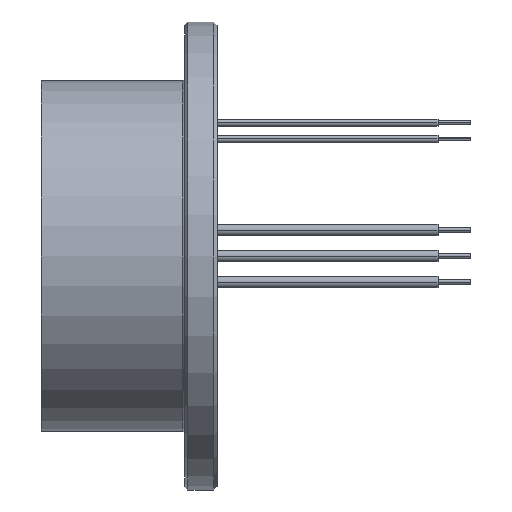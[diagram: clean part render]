
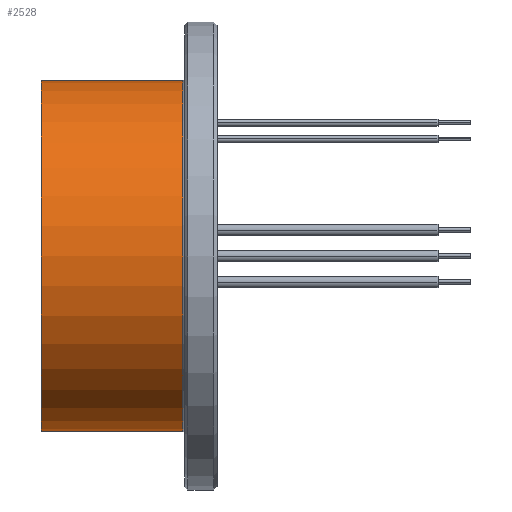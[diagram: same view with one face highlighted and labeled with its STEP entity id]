
A CAD part, front view. The second image highlights one B-rep face of the part: STEP entity #2528.
In plain terms, the highlighted cylindrical face has radius 27 mm (diameter 54 mm), a partial arc.
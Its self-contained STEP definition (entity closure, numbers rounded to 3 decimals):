
#494=CARTESIAN_POINT('',(-5.3,0.,0.));
#495=DIRECTION('',(-1.,0.,0.));
#496=DIRECTION('',(0.,0.,-1.));
#497=AXIS2_PLACEMENT_3D('',#494,#495,#496);
#502=DIRECTION('',(1.,0.,0.));
#503=VECTOR('',#502,21.7);
#504=CARTESIAN_POINT('',(-27.,0.,-27.));
#505=LINE('',#504,#503);
#509=CARTESIAN_POINT('',(-27.,0.,0.));
#510=DIRECTION('',(-1.,0.,0.));
#511=DIRECTION('',(0.,0.,-1.));
#512=AXIS2_PLACEMENT_3D('',#509,#510,#511);
#517=DIRECTION('',(1.,0.,0.));
#518=VECTOR('',#517,21.7);
#519=CARTESIAN_POINT('',(-27.,0.,27.));
#520=LINE('',#519,#518);
#1719=CARTESIAN_POINT('',(-27.,0.,-27.));
#1720=CARTESIAN_POINT('',(-27.,0.,27.));
#1721=VERTEX_POINT('',#1719);
#1722=VERTEX_POINT('',#1720);
#1739=CARTESIAN_POINT('',(-5.3,0.,-27.));
#1740=CARTESIAN_POINT('',(-5.3,0.,27.));
#1741=VERTEX_POINT('',#1739);
#1742=VERTEX_POINT('',#1740);
#2514=CARTESIAN_POINT('',(-28.35,0.,0.));
#2515=DIRECTION('',(1.,0.,0.));
#2516=DIRECTION('',(0.,0.,-1.));
#2517=AXIS2_PLACEMENT_3D('',#2514,#2515,#2516);
#2518=CYLINDRICAL_SURFACE('',#2517,27.);
#2520=ORIENTED_EDGE('',*,*,#2519,.F.);
#2522=ORIENTED_EDGE('',*,*,#2521,.F.);
#2523=ORIENTED_EDGE('',*,*,#2495,.T.);
#2525=ORIENTED_EDGE('',*,*,#2524,.T.);
#2526=EDGE_LOOP('',(#2520,#2522,#2523,#2525));
#2527=FACE_OUTER_BOUND('',#2526,.F.);
#2528=ADVANCED_FACE('',(#2527),#2518,.T.);
#498=CIRCLE('',#497,27.);
#513=CIRCLE('',#512,27.);
#2495=EDGE_CURVE('',#1721,#1722,#513,.T.);
#2519=EDGE_CURVE('',#1741,#1742,#498,.T.);
#2521=EDGE_CURVE('',#1721,#1741,#505,.T.);
#2524=EDGE_CURVE('',#1722,#1742,#520,.T.);
